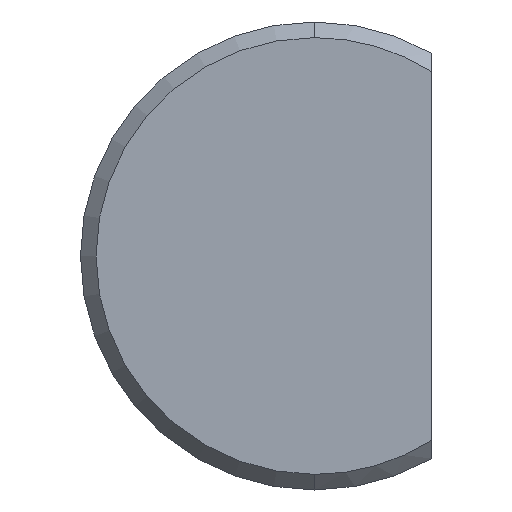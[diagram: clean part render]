
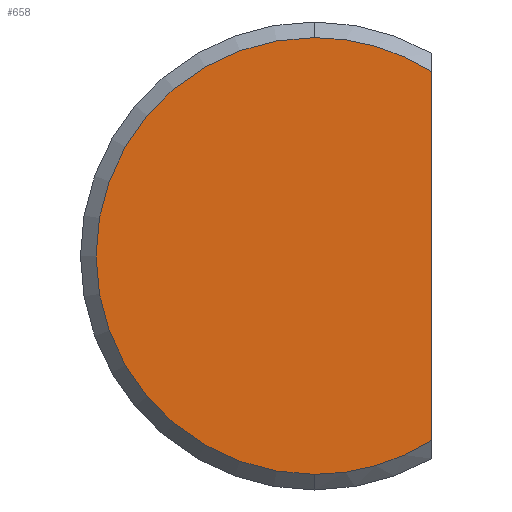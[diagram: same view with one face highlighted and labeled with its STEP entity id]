
A CAD part, front view. The second image highlights one B-rep face of the part: STEP entity #658.
In plain terms, the highlighted planar face has unit normal (0, -1, 0).
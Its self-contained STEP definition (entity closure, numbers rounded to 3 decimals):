
#3 = CIRCLE ( 'NONE', #203, 2.8 ) ;
#12 = CARTESIAN_POINT ( 'NONE',  ( 0., 0., 2.8 ) ) ;
#21 = DIRECTION ( 'NONE',  ( 0., 0., 1. ) ) ;
#24 = CARTESIAN_POINT ( 'NONE',  ( 0., 0., 0. ) ) ;
#30 = EDGE_CURVE ( 'NONE', #413, #201, #555, .T. ) ;
#73 = VECTOR ( 'NONE', #21, 1000. ) ;
#77 = CARTESIAN_POINT ( 'NONE',  ( 0., 0., 0. ) ) ;
#94 = AXIS2_PLACEMENT_3D ( 'NONE', #642, #322, #149 ) ;
#100 = CARTESIAN_POINT ( 'NONE',  ( 0., 0., -2.8 ) ) ;
#126 = DIRECTION ( 'NONE',  ( 0., 0., -1. ) ) ;
#129 = EDGE_CURVE ( 'NONE', #462, #413, #441, .T. ) ;
#141 = ORIENTED_EDGE ( 'NONE', *, *, #129, .T. ) ;
#149 = DIRECTION ( 'NONE',  ( 0., 0., -1. ) ) ;
#182 = FACE_OUTER_BOUND ( 'NONE', #248, .T. ) ;
#201 = VERTEX_POINT ( 'NONE', #287 ) ;
#203 = AXIS2_PLACEMENT_3D ( 'NONE', #24, #350, #126 ) ;
#211 = EDGE_CURVE ( 'NONE', #515, #462, #3, .T. ) ;
#231 = LINE ( 'NONE', #502, #73 ) ;
#243 = EDGE_CURVE ( 'NONE', #201, #515, #231, .T. ) ;
#248 = EDGE_LOOP ( 'NONE', ( #466, #141, #470, #693 ) ) ;
#287 = CARTESIAN_POINT ( 'NONE',  ( 1.5, 0., -2.364 ) ) ;
#322 = DIRECTION ( 'NONE',  ( 0., -1., 0. ) ) ;
#340 = AXIS2_PLACEMENT_3D ( 'NONE', #77, #405, #562 ) ;
#345 = PLANE ( 'NONE',  #340 ) ;
#350 = DIRECTION ( 'NONE',  ( 0., -1., 0. ) ) ;
#391 = DIRECTION ( 'NONE',  ( 0., -1., 0. ) ) ;
#405 = DIRECTION ( 'NONE',  ( 0., -1., 0. ) ) ;
#413 = VERTEX_POINT ( 'NONE', #100 ) ;
#441 = CIRCLE ( 'NONE', #531, 2.8 ) ;
#462 = VERTEX_POINT ( 'NONE', #12 ) ;
#466 = ORIENTED_EDGE ( 'NONE', *, *, #211, .T. ) ;
#470 = ORIENTED_EDGE ( 'NONE', *, *, #30, .T. ) ;
#488 = CARTESIAN_POINT ( 'NONE',  ( 1.5, 0., 2.364 ) ) ;
#502 = CARTESIAN_POINT ( 'NONE',  ( 1.5, 0., -2.598 ) ) ;
#515 = VERTEX_POINT ( 'NONE', #488 ) ;
#531 = AXIS2_PLACEMENT_3D ( 'NONE', #672, #391, #608 ) ;
#555 = CIRCLE ( 'NONE', #94, 2.8 ) ;
#562 = DIRECTION ( 'NONE',  ( 0., 0., -1. ) ) ;
#608 = DIRECTION ( 'NONE',  ( 0., 0., -1. ) ) ;
#642 = CARTESIAN_POINT ( 'NONE',  ( 0., 0., 0. ) ) ;
#658 = ADVANCED_FACE ( 'NONE', ( #182 ), #345, .T. ) ;
#672 = CARTESIAN_POINT ( 'NONE',  ( 0., 0., 0. ) ) ;
#693 = ORIENTED_EDGE ( 'NONE', *, *, #243, .T. ) ;
